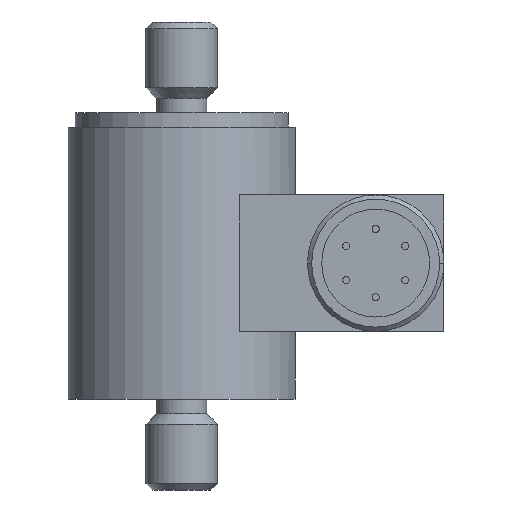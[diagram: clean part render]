
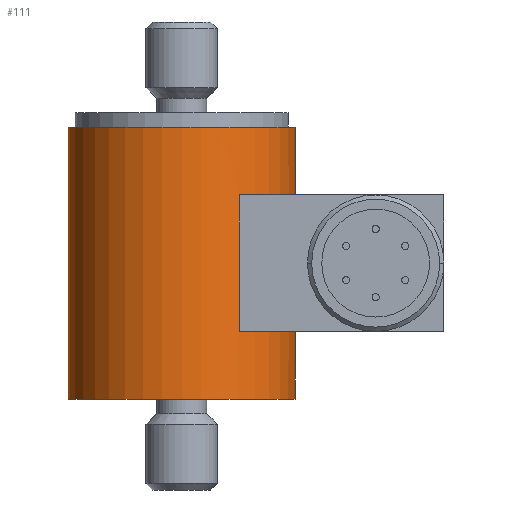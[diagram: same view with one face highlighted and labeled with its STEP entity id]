
A CAD part, front view. The second image highlights one B-rep face of the part: STEP entity #111.
In plain terms, the highlighted cylindrical face has radius 15.9 mm (diameter 31.8 mm), a partial arc.
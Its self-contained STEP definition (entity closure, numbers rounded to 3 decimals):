
#111=ADVANCED_FACE('',(#207),#208,.T.);
#207=FACE_OUTER_BOUND('',#355,.T.);
#208=CYLINDRICAL_SURFACE('',#356,15.9);
#355=EDGE_LOOP('',(#599,#600,#601,#602,#603,#604,#605,#606));
#356=AXIS2_PLACEMENT_3D('',#607,#608,#609);
#599=ORIENTED_EDGE('',*,*,#980,.F.);
#600=ORIENTED_EDGE('',*,*,#981,.T.);
#601=ORIENTED_EDGE('',*,*,#982,.F.);
#602=ORIENTED_EDGE('',*,*,#983,.F.);
#603=ORIENTED_EDGE('',*,*,#984,.F.);
#604=ORIENTED_EDGE('',*,*,#985,.T.);
#605=ORIENTED_EDGE('',*,*,#986,.T.);
#606=ORIENTED_EDGE('',*,*,#987,.T.);
#607=CARTESIAN_POINT('',(0.0,0.,19.05));
#608=DIRECTION('',(0.0,0.,1.0));
#609=DIRECTION('',(1.0,0.0,0.0));
#980=EDGE_CURVE('',#1142,#1143,#1144,.T.);
#981=EDGE_CURVE('',#1142,#1145,#1146,.T.);
#982=EDGE_CURVE('',#1147,#1145,#1148,.T.);
#983=EDGE_CURVE('',#1149,#1147,#1150,.T.);
#984=EDGE_CURVE('',#1151,#1149,#1152,.T.);
#985=EDGE_CURVE('',#1151,#1153,#1154,.T.);
#986=EDGE_CURVE('',#1153,#1155,#1156,.T.);
#987=EDGE_CURVE('',#1155,#1143,#1157,.T.);
#1142=VERTEX_POINT('',#1379);
#1143=VERTEX_POINT('',#1380);
#1144=LINE('',#1381,#1382);
#1145=VERTEX_POINT('',#1383);
#1146=CIRCLE('',#1384,15.9);
#1147=VERTEX_POINT('',#1385);
#1148=LINE('',#1386,#1387);
#1149=VERTEX_POINT('',#1388);
#1150=CIRCLE('',#1389,15.9);
#1151=VERTEX_POINT('',#1390);
#1152=LINE('',#1391,#1392);
#1153=VERTEX_POINT('',#1393);
#1154=CIRCLE('',#1394,15.9);
#1155=VERTEX_POINT('',#1395);
#1156=LINE('',#1396,#1397);
#1157=CIRCLE('',#1398,15.9);
#1379=CARTESIAN_POINT('',(15.9,0.,38.1));
#1380=CARTESIAN_POINT('',(15.9,0.,28.6));
#1381=CARTESIAN_POINT('',(15.9,0.,19.05));
#1382=VECTOR('',#1675,1.0);
#1383=CARTESIAN_POINT('',(-15.9,0.,38.1));
#1384=AXIS2_PLACEMENT_3D('',#1676,#1677,#1678);
#1385=CARTESIAN_POINT('',(-15.9,0.,0.));
#1386=CARTESIAN_POINT('',(-15.9,0.,19.05));
#1387=VECTOR('',#1679,1.0);
#1388=CARTESIAN_POINT('',(15.9,0.0,0.0));
#1389=AXIS2_PLACEMENT_3D('',#1680,#1681,#1682);
#1390=CARTESIAN_POINT('',(15.9,0.,9.5));
#1391=CARTESIAN_POINT('',(15.9,0.,19.05));
#1392=VECTOR('',#1683,1.0);
#1393=CARTESIAN_POINT('',(8.05,-13.712,9.5));
#1394=AXIS2_PLACEMENT_3D('',#1684,#1685,#1686);
#1395=CARTESIAN_POINT('',(8.05,-13.712,28.6));
#1396=CARTESIAN_POINT('',(8.05,-13.712,19.05));
#1397=VECTOR('',#1687,1.0);
#1398=AXIS2_PLACEMENT_3D('',#1688,#1689,#1690);
#1675=DIRECTION('',(0.0,0.,-1.0));
#1676=CARTESIAN_POINT('',(0.0,0.,38.1));
#1677=DIRECTION('',(0.0,0.,-1.0));
#1678=DIRECTION('',(1.0,0.0,0.0));
#1679=DIRECTION('',(0.0,0.,1.0));
#1680=CARTESIAN_POINT('',(0.0,0.0,0.0));
#1681=DIRECTION('',(0.0,0.,-1.0));
#1682=DIRECTION('',(1.0,0.0,0.0));
#1683=DIRECTION('',(0.0,0.,-1.0));
#1684=CARTESIAN_POINT('',(0.0,0.,9.5));
#1685=DIRECTION('',(0.,0.,-1.0));
#1686=DIRECTION('',(1.0,0.,0.));
#1687=DIRECTION('',(0.0,0.,1.0));
#1688=CARTESIAN_POINT('',(0.0,0.,28.6));
#1689=DIRECTION('',(0.,0.,1.0));
#1690=DIRECTION('',(1.0,0.,0.));
